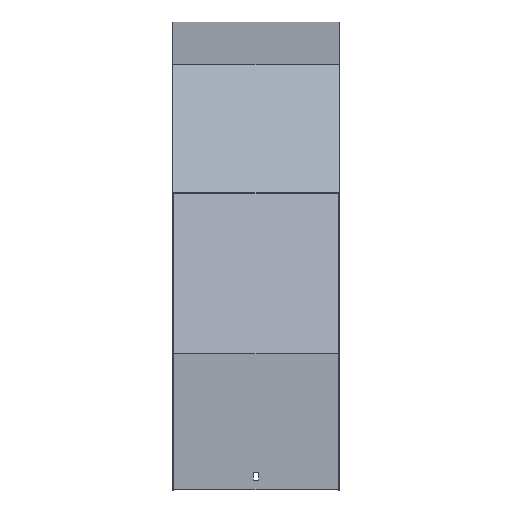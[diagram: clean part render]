
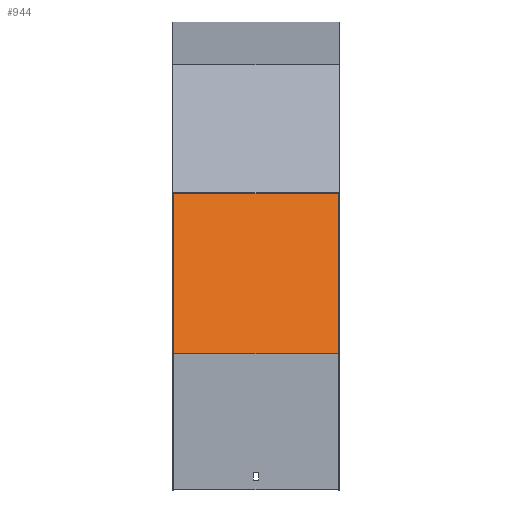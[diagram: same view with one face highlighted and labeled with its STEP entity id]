
A CAD part, top view. The second image highlights one B-rep face of the part: STEP entity #944.
In plain terms, the highlighted planar face has unit normal (0, 0.259, 0.966).
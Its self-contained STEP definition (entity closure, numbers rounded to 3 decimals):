
#5 = VERTEX_POINT ( 'NONE', #344 ) ;
#49 = LINE ( 'NONE', #391, #167 ) ;
#65 = CARTESIAN_POINT ( 'NONE',  ( 101.5, -193.079, 518.459 ) ) ;
#103 = EDGE_LOOP ( 'NONE', ( #405, #433, #341, #717 ) ) ;
#105 = CARTESIAN_POINT ( 'NONE',  ( 101.5, -193.079, 518.459 ) ) ;
#110 = LINE ( 'NONE', #705, #649 ) ;
#167 = VECTOR ( 'NONE', #1001, 1000. ) ;
#168 = CARTESIAN_POINT ( 'NONE',  ( -101.5, -383.978, 569.611 ) ) ;
#275 = CARTESIAN_POINT ( 'NONE',  ( -101.5, -187.902, 517.072 ) ) ;
#324 = CARTESIAN_POINT ( 'NONE',  ( 101.5, -383.978, 569.611 ) ) ;
#328 = EDGE_CURVE ( 'NONE', #640, #842, #1013, .T. ) ;
#341 = ORIENTED_EDGE ( 'NONE', *, *, #394, .F. ) ;
#344 = CARTESIAN_POINT ( 'NONE',  ( 101.5, -187.902, 517.072 ) ) ;
#391 = CARTESIAN_POINT ( 'NONE',  ( 101.5, -383.978, 569.611 ) ) ;
#394 = EDGE_CURVE ( 'NONE', #5, #660, #651, .T. ) ;
#405 = ORIENTED_EDGE ( 'NONE', *, *, #328, .T. ) ;
#433 = ORIENTED_EDGE ( 'NONE', *, *, #782, .F. ) ;
#470 = DIRECTION ( 'NONE',  ( -1., 0., 0. ) ) ;
#482 = VECTOR ( 'NONE', #1112, 1000. ) ;
#513 = VECTOR ( 'NONE', #740, 1000. ) ;
#540 = DIRECTION ( 'NONE',  ( 0., -0.259, -0.966 ) ) ;
#555 = AXIS2_PLACEMENT_3D ( 'NONE', #105, #540, #712 ) ;
#640 = VERTEX_POINT ( 'NONE', #275 ) ;
#649 = VECTOR ( 'NONE', #470, 1000. ) ;
#651 = LINE ( 'NONE', #65, #482 ) ;
#660 = VERTEX_POINT ( 'NONE', #324 ) ;
#705 = CARTESIAN_POINT ( 'NONE',  ( 101.5, -187.902, 517.072 ) ) ;
#712 = DIRECTION ( 'NONE',  ( 0., 0.966, -0.259 ) ) ;
#717 = ORIENTED_EDGE ( 'NONE', *, *, #1036, .T. ) ;
#740 = DIRECTION ( 'NONE',  ( 0., -0.966, 0.259 ) ) ;
#782 = EDGE_CURVE ( 'NONE', #660, #842, #49, .T. ) ;
#842 = VERTEX_POINT ( 'NONE', #168 ) ;
#866 = PLANE ( 'NONE',  #555 ) ;
#917 = CARTESIAN_POINT ( 'NONE',  ( -101.5, -193.079, 518.459 ) ) ;
#944 = ADVANCED_FACE ( 'NONE', ( #953 ), #866, .F. ) ;
#953 = FACE_OUTER_BOUND ( 'NONE', #103, .T. ) ;
#1001 = DIRECTION ( 'NONE',  ( -1., 0., 0. ) ) ;
#1013 = LINE ( 'NONE', #917, #513 ) ;
#1036 = EDGE_CURVE ( 'NONE', #5, #640, #110, .T. ) ;
#1112 = DIRECTION ( 'NONE',  ( 0., -0.966, 0.259 ) ) ;
